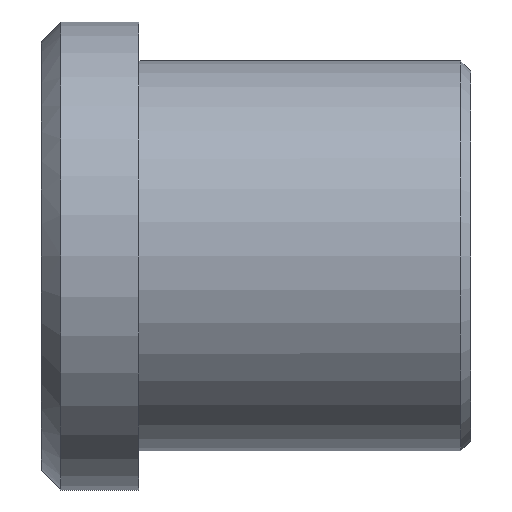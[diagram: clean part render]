
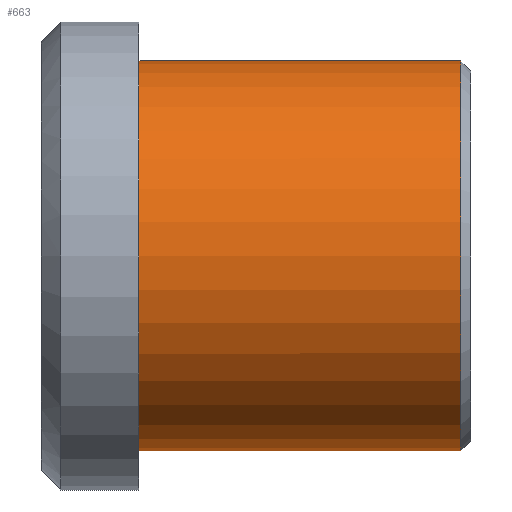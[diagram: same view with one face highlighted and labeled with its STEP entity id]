
A CAD part, front view. The second image highlights one B-rep face of the part: STEP entity #663.
In plain terms, the highlighted cylindrical face has radius 10 mm (diameter 20 mm), a partial arc.
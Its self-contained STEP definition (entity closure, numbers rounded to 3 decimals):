
#501=CARTESIAN_POINT('Vertex',(0.,0.,-10.)) ;
#506=CARTESIAN_POINT('Axis2P3D Location',(0.,0.,0.)) ;
#510=CARTESIAN_POINT('Vertex',(0.,-10.,0.)) ;
#513=CARTESIAN_POINT('Axis2P3D Location',(0.,0.,0.)) ;
#517=CARTESIAN_POINT('Vertex',(0.,0.,10.)) ;
#603=CARTESIAN_POINT('Line Origine',(17.,0.,10.)) ;
#607=CARTESIAN_POINT('Vertex',(16.5,0.,10.)) ;
#621=CARTESIAN_POINT('Vertex',(16.5,0.,-10.)) ;
#624=CARTESIAN_POINT('Line Origine',(17.,0.,-10.)) ;
#638=CARTESIAN_POINT('Axis2P3D Location',(17.,0.,0.)) ;
#643=CARTESIAN_POINT('Axis2P3D Location',(16.5,0.,0.)) ;
#647=CARTESIAN_POINT('Vertex',(16.5,-10.,0.)) ;
#650=CARTESIAN_POINT('Axis2P3D Location',(16.5,0.,0.)) ;
#507=DIRECTION('Axis2P3D Direction',(1.,0.,-0.)) ;
#514=DIRECTION('Axis2P3D Direction',(1.,0.,-0.)) ;
#604=DIRECTION('Vector Direction',(-1.,0.,0.)) ;
#625=DIRECTION('Vector Direction',(-1.,0.,0.)) ;
#639=DIRECTION('Axis2P3D Direction',(-1.,-0.,-0.)) ;
#640=DIRECTION('Axis2P3D XDirection',(0.,0.,-1.)) ;
#644=DIRECTION('Axis2P3D Direction',(-1.,-0.,-0.)) ;
#651=DIRECTION('Axis2P3D Direction',(-1.,-0.,-0.)) ;
#508=AXIS2_PLACEMENT_3D('Circle Axis2P3D',#506,#507,$) ;
#515=AXIS2_PLACEMENT_3D('Circle Axis2P3D',#513,#514,$) ;
#641=AXIS2_PLACEMENT_3D('Cylinder Axis2P3D',#638,#639,#640) ;
#645=AXIS2_PLACEMENT_3D('Circle Axis2P3D',#643,#644,$) ;
#652=AXIS2_PLACEMENT_3D('Circle Axis2P3D',#650,#651,$) ;
#656=ORIENTED_EDGE('',*,*,#628,.T.) ;
#657=ORIENTED_EDGE('',*,*,#649,.F.) ;
#658=ORIENTED_EDGE('',*,*,#654,.F.) ;
#659=ORIENTED_EDGE('',*,*,#609,.T.) ;
#660=ORIENTED_EDGE('',*,*,#519,.T.) ;
#661=ORIENTED_EDGE('',*,*,#512,.T.) ;
#605=VECTOR('Line Direction',#604,1.) ;
#626=VECTOR('Line Direction',#625,1.) ;
#663=ADVANCED_FACE('353-14X22',(#662),#642,.T.) ;
#509=CIRCLE('generated circle',#508,10.) ;
#516=CIRCLE('generated circle',#515,10.) ;
#646=CIRCLE('generated circle',#645,10.) ;
#653=CIRCLE('generated circle',#652,10.) ;
#642=CYLINDRICAL_SURFACE('generated cylinder',#641,10.) ;
#512=EDGE_CURVE('',#511,#502,#509,.T.) ;
#519=EDGE_CURVE('',#518,#511,#516,.T.) ;
#609=EDGE_CURVE('',#608,#518,#606,.T.) ;
#628=EDGE_CURVE('',#502,#622,#627,.F.) ;
#649=EDGE_CURVE('',#648,#622,#646,.F.) ;
#654=EDGE_CURVE('',#608,#648,#653,.F.) ;
#655=EDGE_LOOP('',(#656,#657,#658,#659,#660,#661)) ;
#662=FACE_OUTER_BOUND('',#655,.T.) ;
#606=LINE('Line',#603,#605) ;
#627=LINE('Line',#624,#626) ;
#502=VERTEX_POINT('',#501) ;
#511=VERTEX_POINT('',#510) ;
#518=VERTEX_POINT('',#517) ;
#608=VERTEX_POINT('',#607) ;
#622=VERTEX_POINT('',#621) ;
#648=VERTEX_POINT('',#647) ;
